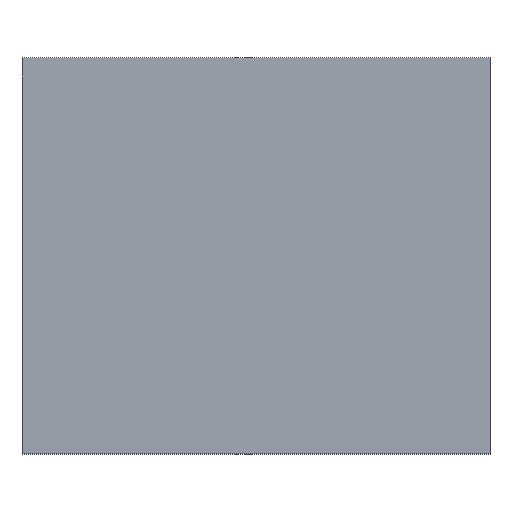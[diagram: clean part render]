
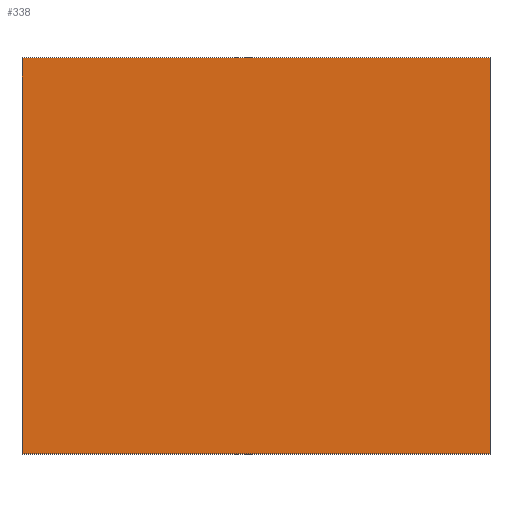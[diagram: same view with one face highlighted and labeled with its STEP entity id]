
A CAD part, top view. The second image highlights one B-rep face of the part: STEP entity #338.
In plain terms, the highlighted planar face has unit normal (0, 0, 1).
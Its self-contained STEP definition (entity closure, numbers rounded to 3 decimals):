
#21 = EDGE_CURVE('',#22,#24,#26,.T.);
#22 = VERTEX_POINT('',#23);
#23 = CARTESIAN_POINT('',(10.,108.,38.));
#24 = VERTEX_POINT('',#25);
#25 = CARTESIAN_POINT('',(10.,86.,38.));
#26 = SURFACE_CURVE('',#27,(#31,#43),.PCURVE_S1.);
#27 = LINE('',#28,#29);
#28 = CARTESIAN_POINT('',(10.,86.,38.));
#29 = VECTOR('',#30,1.);
#30 = DIRECTION('',(0.,-1.,0.));
#31 = PCURVE('',#32,#37);
#32 = PLANE('',#33);
#33 = AXIS2_PLACEMENT_3D('',#34,#35,#36);
#34 = CARTESIAN_POINT('',(10.,86.,35.));
#35 = DIRECTION('',(1.,0.,0.));
#36 = DIRECTION('',(0.,0.,1.));
#37 = DEFINITIONAL_REPRESENTATION('',(#38),#42);
#38 = LINE('',#39,#40);
#39 = CARTESIAN_POINT('',(3.,0.));
#40 = VECTOR('',#41,1.);
#41 = DIRECTION('',(0.,1.));
#42 = ( GEOMETRIC_REPRESENTATION_CONTEXT(2) 
PARAMETRIC_REPRESENTATION_CONTEXT() REPRESENTATION_CONTEXT('2D SPACE',''
  ) );
#43 = PCURVE('',#44,#49);
#44 = PLANE('',#45);
#45 = AXIS2_PLACEMENT_3D('',#46,#47,#48);
#46 = CARTESIAN_POINT('',(10.,86.,38.));
#47 = DIRECTION('',(0.,0.,1.));
#48 = DIRECTION('',(1.,0.,0.));
#49 = DEFINITIONAL_REPRESENTATION('',(#50),#54);
#50 = LINE('',#51,#52);
#51 = CARTESIAN_POINT('',(0.,0.));
#52 = VECTOR('',#53,1.);
#53 = DIRECTION('',(0.,-1.));
#54 = ( GEOMETRIC_REPRESENTATION_CONTEXT(2) 
PARAMETRIC_REPRESENTATION_CONTEXT() REPRESENTATION_CONTEXT('2D SPACE',''
  ) );
#72 = PLANE('',#73);
#73 = AXIS2_PLACEMENT_3D('',#74,#75,#76);
#74 = CARTESIAN_POINT('',(10.,108.,35.));
#75 = DIRECTION('',(0.,1.,0.));
#76 = DIRECTION('',(0.,0.,1.));
#126 = PLANE('',#127);
#127 = AXIS2_PLACEMENT_3D('',#128,#129,#130);
#128 = CARTESIAN_POINT('',(10.,86.,35.));
#129 = DIRECTION('',(0.,1.,0.));
#130 = DIRECTION('',(0.,0.,1.));
#144 = VERTEX_POINT('',#145);
#145 = CARTESIAN_POINT('',(36.,86.,38.));
#152 = PLANE('',#153);
#153 = AXIS2_PLACEMENT_3D('',#154,#155,#156);
#154 = CARTESIAN_POINT('',(36.,86.,35.));
#155 = DIRECTION('',(1.,0.,0.));
#156 = DIRECTION('',(0.,0.,1.));
#195 = VERTEX_POINT('',#196);
#196 = CARTESIAN_POINT('',(36.,108.,38.));
#217 = EDGE_CURVE('',#144,#195,#218,.T.);
#218 = SURFACE_CURVE('',#219,(#223,#230),.PCURVE_S1.);
#219 = LINE('',#220,#221);
#220 = CARTESIAN_POINT('',(36.,86.,38.));
#221 = VECTOR('',#222,1.);
#222 = DIRECTION('',(0.,1.,0.));
#223 = PCURVE('',#152,#224);
#224 = DEFINITIONAL_REPRESENTATION('',(#225),#229);
#225 = LINE('',#226,#227);
#226 = CARTESIAN_POINT('',(3.,0.));
#227 = VECTOR('',#228,1.);
#228 = DIRECTION('',(0.,-1.));
#229 = ( GEOMETRIC_REPRESENTATION_CONTEXT(2) 
PARAMETRIC_REPRESENTATION_CONTEXT() REPRESENTATION_CONTEXT('2D SPACE',''
  ) );
#230 = PCURVE('',#44,#231);
#231 = DEFINITIONAL_REPRESENTATION('',(#232),#236);
#232 = LINE('',#233,#234);
#233 = CARTESIAN_POINT('',(26.,0.));
#234 = VECTOR('',#235,1.);
#235 = DIRECTION('',(0.,1.));
#236 = ( GEOMETRIC_REPRESENTATION_CONTEXT(2) 
PARAMETRIC_REPRESENTATION_CONTEXT() REPRESENTATION_CONTEXT('2D SPACE',''
  ) );
#242 = EDGE_CURVE('',#24,#144,#243,.T.);
#243 = SURFACE_CURVE('',#244,(#248,#255),.PCURVE_S1.);
#244 = LINE('',#245,#246);
#245 = CARTESIAN_POINT('',(10.,86.,38.));
#246 = VECTOR('',#247,1.);
#247 = DIRECTION('',(1.,0.,0.));
#248 = PCURVE('',#126,#249);
#249 = DEFINITIONAL_REPRESENTATION('',(#250),#254);
#250 = LINE('',#251,#252);
#251 = CARTESIAN_POINT('',(3.,0.));
#252 = VECTOR('',#253,1.);
#253 = DIRECTION('',(0.,1.));
#254 = ( GEOMETRIC_REPRESENTATION_CONTEXT(2) 
PARAMETRIC_REPRESENTATION_CONTEXT() REPRESENTATION_CONTEXT('2D SPACE',''
  ) );
#255 = PCURVE('',#44,#256);
#256 = DEFINITIONAL_REPRESENTATION('',(#257),#261);
#257 = LINE('',#258,#259);
#258 = CARTESIAN_POINT('',(0.,0.));
#259 = VECTOR('',#260,1.);
#260 = DIRECTION('',(1.,0.));
#261 = ( GEOMETRIC_REPRESENTATION_CONTEXT(2) 
PARAMETRIC_REPRESENTATION_CONTEXT() REPRESENTATION_CONTEXT('2D SPACE',''
  ) );
#310 = EDGE_CURVE('',#22,#195,#311,.T.);
#311 = SURFACE_CURVE('',#312,(#316,#323),.PCURVE_S1.);
#312 = LINE('',#313,#314);
#313 = CARTESIAN_POINT('',(10.,108.,38.));
#314 = VECTOR('',#315,1.);
#315 = DIRECTION('',(1.,0.,0.));
#316 = PCURVE('',#72,#317);
#317 = DEFINITIONAL_REPRESENTATION('',(#318),#322);
#318 = LINE('',#319,#320);
#319 = CARTESIAN_POINT('',(3.,0.));
#320 = VECTOR('',#321,1.);
#321 = DIRECTION('',(0.,1.));
#322 = ( GEOMETRIC_REPRESENTATION_CONTEXT(2) 
PARAMETRIC_REPRESENTATION_CONTEXT() REPRESENTATION_CONTEXT('2D SPACE',''
  ) );
#323 = PCURVE('',#44,#324);
#324 = DEFINITIONAL_REPRESENTATION('',(#325),#329);
#325 = LINE('',#326,#327);
#326 = CARTESIAN_POINT('',(0.,22.));
#327 = VECTOR('',#328,1.);
#328 = DIRECTION('',(1.,0.));
#329 = ( GEOMETRIC_REPRESENTATION_CONTEXT(2) 
PARAMETRIC_REPRESENTATION_CONTEXT() REPRESENTATION_CONTEXT('2D SPACE',''
  ) );
#338 = ADVANCED_FACE('',(#339),#44,.T.);
#339 = FACE_BOUND('',#340,.T.);
#340 = EDGE_LOOP('',(#341,#342,#343,#344));
#341 = ORIENTED_EDGE('',*,*,#21,.T.);
#342 = ORIENTED_EDGE('',*,*,#242,.T.);
#343 = ORIENTED_EDGE('',*,*,#217,.T.);
#344 = ORIENTED_EDGE('',*,*,#310,.F.);
